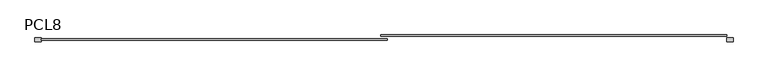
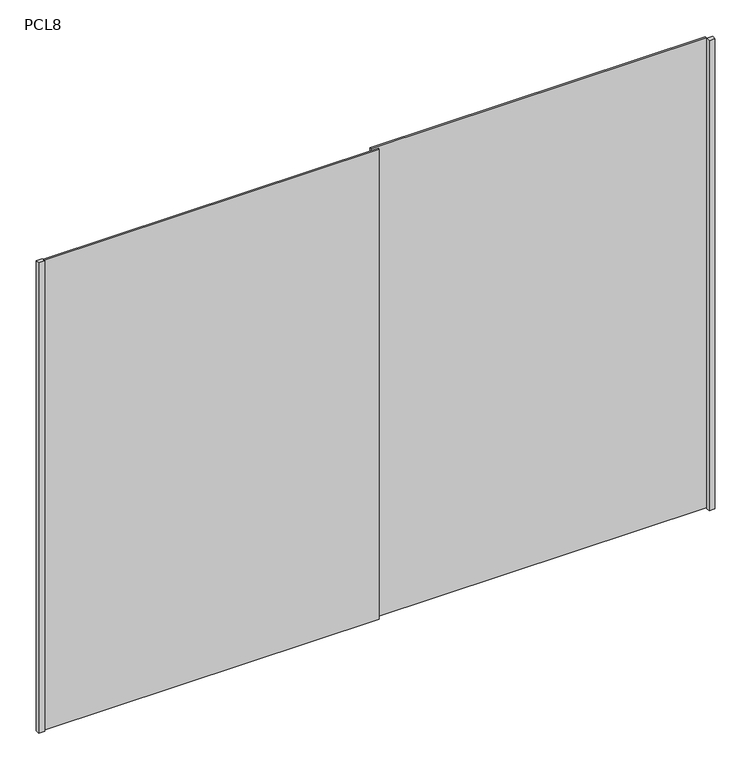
"""IFC4 building model written with IfcOpenShell, lengths in millimetres: furniture geometry, Puerta Closet corre 2 hojas : PCL8."""

import ifcopenshell
import ifcopenshell.guid

model = None  # the IFC model being written
_history = None  # IfcOwnerHistory: only IFC2X3 demands one
_inside = {}  # id of a spatial element -> (the spatial element, [elements in it])
_under = {}  # id of a project, library or spatial element -> (it, [spatial elements below it])
_declared = {}  # id of a project -> (the project, [libraries it declares])
_typed = {}  # id of a type object -> (the type object, [elements of that type])
_made_of = {}  # id of a material, layer set ... -> (it, [elements and type objects made of it])


def new_model(schema):
    """Start an empty IFC model of exactly this schema.

    Asked for "IFC4X3", IfcOpenShell would pick the latest addendum, in which some entities
    have other attributes; the version numbers below select the first issue.
    IFC2X3 requires an IfcOwnerHistory on every rooted entity: one is made here for all.
    """
    global model, _history
    if schema == "IFC4X3":
        model = ifcopenshell.file(schema_version=(4, 3, 0, 0))
    else:
        model = ifcopenshell.file(schema=schema)
    _inside.clear()
    _under.clear()
    _declared.clear()
    _typed.clear()
    _made_of.clear()
    _history = None
    if model.schema == "IFC2X3":
        org = make("IfcOrganization", Name="unknown")
        user = make(
            "IfcPersonAndOrganization",
            ThePerson=make("IfcPerson", FamilyName="unknown"),
            TheOrganization=org,
        )
        app = make(
            "IfcApplication",
            ApplicationDeveloper=org,
            Version="unknown",
            ApplicationFullName="unknown",
            ApplicationIdentifier="unknown",
        )
        _history = make(
            "IfcOwnerHistory",
            OwningUser=user,
            OwningApplication=app,
            ChangeAction="ADDED",
            CreationDate=0,
        )
    return model


def make(cls, **values):
    """One entity of the class cls with the attributes given. An attribute that is None is left unset."""
    return model.create_entity(
        cls, **{name: value for name, value in values.items() if value is not None}
    )


def rooted(cls, **values):
    """An entity with a GlobalId (a new one), such as an element, a storey or a relation."""
    return make(cls, GlobalId=ifcopenshell.guid.new(), OwnerHistory=_history, **values)


def si_unit(unit_type, name, prefix=None):
    """IfcSIUnit, for example si_unit("LENGTHUNIT", "METRE", prefix="MILLI")."""
    return make("IfcSIUnit", UnitType=unit_type, Prefix=prefix, Name=name)


def assignment(units):
    """IfcUnitAssignment: the units of a project."""
    return None if units is None else make("IfcUnitAssignment", Units=units)


def point(xyz):
    """IfcCartesianPoint."""
    return None if xyz is None else make("IfcCartesianPoint", Coordinates=xyz)


def direction(xyz):
    """IfcDirection."""
    return None if xyz is None else make("IfcDirection", DirectionRatios=xyz)


def frame(location, z_axis=None, x_axis=None):
    """IfcAxis2Placement3D, a coordinate frame: its origin and axes. An axis left out is left unset."""
    return make(
        "IfcAxis2Placement3D",
        Location=point(location),
        Axis=direction(z_axis),
        RefDirection=direction(x_axis),
    )


def origin():
    """The frame at (0, 0, 0) with its axes left unset."""
    return frame((0.0, 0.0, 0.0))


def origin_with_axes():
    """The frame at (0, 0, 0) with the z axis (0, 0, 1) and the x axis (1, 0, 0) written out."""
    return frame((0.0, 0.0, 0.0), z_axis=(0.0, 0.0, 1.0), x_axis=(1.0, 0.0, 0.0))


def place(relative_to, where):
    """IfcLocalPlacement: puts the frame where relative to a parent placement (None: the world)."""
    return make(
        "IfcLocalPlacement", PlacementRelTo=relative_to, RelativePlacement=where
    )


def context(
    kind, dimensions, precision=None, world=None, true_north=None, identifier=None
):
    """IfcGeometricRepresentationContext, for example the 3D "Model" context."""
    return make(
        "IfcGeometricRepresentationContext",
        ContextIdentifier=identifier,
        ContextType=kind,
        CoordinateSpaceDimension=dimensions,
        Precision=precision,
        WorldCoordinateSystem=world,
        TrueNorth=true_north,
    )


def project(units=None, contexts=None):
    """IfcProject with its units and contexts."""
    return rooted(
        "IfcProject",
        Name="project",
        RepresentationContexts=contexts,
        UnitsInContext=assignment(units),
    )


def spatial(cls, under=None, at=None, **own):
    """A site, building, storey or space (cls), placed at a placement, below another one or the project."""
    s = rooted(cls, ObjectPlacement=at, **own)
    if under is not None:
        _under.setdefault(under.id(), (under, []))[1].append(s)
    return s


def polyline(points):
    """IfcPolyline through the points."""
    return make("IfcPolyline", Points=[point(p) for p in points])


def outline(outer, holes=None, kind="AREA"):
    """IfcArbitraryClosedProfileDef: a profile drawn as a closed curve; with holes, ...WithVoids."""
    if holes is None:
        return make("IfcArbitraryClosedProfileDef", ProfileType=kind, OuterCurve=outer)
    return make(
        "IfcArbitraryProfileDefWithVoids",
        ProfileType=kind,
        OuterCurve=outer,
        InnerCurves=holes,
    )


def extrude(swept, where, along, depth):
    """IfcExtrudedAreaSolid: the profile swept, set in the frame where, extruded along a direction by depth."""
    return make(
        "IfcExtrudedAreaSolid",
        SweptArea=swept,
        Position=where,
        ExtrudedDirection=direction(along),
        Depth=depth,
    )


def shape(context_of_items, identifier, shape_type, items):
    """IfcShapeRepresentation: the items that make up one representation, for example the "Body"."""
    return make(
        "IfcShapeRepresentation",
        ContextOfItems=context_of_items,
        RepresentationIdentifier=identifier,
        RepresentationType=shape_type,
        Items=items,
    )


def source(mapping_origin, context_of_items, identifier, shape_type, items):
    """IfcRepresentationMap: a shape defined once, which mapped items show again and again."""
    return make(
        "IfcRepresentationMap",
        MappingOrigin=mapping_origin,
        MappedRepresentation=shape(context_of_items, identifier, shape_type, items),
    )


def transform(
    local_origin,
    x_axis=None,
    y_axis=None,
    z_axis=None,
    scale=None,
    scale2=None,
    scale3=None,
    uniform=True,
):
    """IfcCartesianTransformationOperator3D, or its non-uniform kind. x_axis, y_axis, z_axis: its Axis1, 2, 3."""
    if uniform:
        return make(
            "IfcCartesianTransformationOperator3D",
            Axis1=direction(x_axis),
            Axis2=direction(y_axis),
            LocalOrigin=point(local_origin),
            Scale=scale,
            Axis3=direction(z_axis),
        )
    return make(
        "IfcCartesianTransformationOperator3DnonUniform",
        Axis1=direction(x_axis),
        Axis2=direction(y_axis),
        LocalOrigin=point(local_origin),
        Scale=scale,
        Axis3=direction(z_axis),
        Scale2=scale2,
        Scale3=scale3,
    )


def mapped(mapping_source, mapping_target):
    """IfcMappedItem: shows the shape of a source again, moved by a transform."""
    return make(
        "IfcMappedItem", MappingSource=mapping_source, MappingTarget=mapping_target
    )


def made_of(thing, what):
    """Note that an element or type object is made of a material, layer set ...; save() writes the relation."""
    if what is not None:
        _made_of.setdefault(what.id(), (what, []))[1].append(thing)
    return thing


def element(
    cls,
    number,
    at=None,
    inside=None,
    cuts=None,
    type_object=None,
    material=None,
    context=None,
    identifier="Body",
    shape_type=None,
    held_by="IfcProductDefinitionShape",
    body=None,
    shapes=None,
    **own,
):
    """One element of the class cls, such as IfcWall. Its Tag is "e" and its number.

    at: its placement. inside: the storey or other place that contains it. cuts: it is an
    opening in that element (IfcRelVoidsElement). A single representation is given by context,
    identifier, shape_type and body (its items); several are given by shapes. held_by: the class
    of the entity that holds the representations. save() writes the other relations.
    """
    e = rooted(cls, Tag="e%d" % number, ObjectPlacement=at, **own)
    if body is not None:
        shapes = [shape(context, identifier, shape_type, body)]
    if shapes is not None:
        e.Representation = make(held_by, Representations=shapes)
    if inside is not None:
        _inside.setdefault(inside.id(), (inside, []))[1].append(e)
    if cuts is not None:
        rooted(
            "IfcRelVoidsElement", RelatingBuildingElement=cuts, RelatedOpeningElement=e
        )
    if type_object is not None:
        _typed.setdefault(type_object.id(), (type_object, []))[1].append(e)
    return made_of(e, material)


def aggregate(whole, parts):
    """IfcRelAggregates: a whole, such as a stair, and the parts it consists of."""
    return rooted("IfcRelAggregates", RelatingObject=whole, RelatedObjects=parts)


def save(model, path):
    """Write the relations noted so far, then the file.

    IfcRelAggregates (storeys below a building ...), IfcRelContainedInSpatialStructure (elements
    in a storey), IfcRelDefinesByType, IfcRelAssociatesMaterial and IfcRelDeclares: one each for
    every whole, place, type object, material and project.
    """
    for whole, parts in _under.values():
        aggregate(whole, parts)
    for where, things in _inside.values():
        rooted(
            "IfcRelContainedInSpatialStructure",
            RelatedElements=things,
            RelatingStructure=where,
        )
    for kind, things in _typed.values():
        rooted("IfcRelDefinesByType", RelatedObjects=things, RelatingType=kind)
    for what, things in _made_of.values():
        rooted("IfcRelAssociatesMaterial", RelatedObjects=things, RelatingMaterial=what)
    for by, libraries in _declared.values():
        rooted("IfcRelDeclares", RelatingContext=by, RelatedDefinitions=libraries)
    model.write(path)


def pcl8_9f75de13(model_context):
    return source(origin(), model_context, "Body", "SweptSolid", [
        extrude(outline(polyline([(1175.0, 80.0), (1145.0, 80.0), (1145.0, 100.0), (1175.0, 100.0), (1175.0, 80.0)])), origin_with_axes(), (0.0, 0.0, 1.0), 2520.0),
        extrude(outline(polyline([(1145.0, 106.6666667), (-555.0, 106.6666667), (-555.0, 113.3333333), (1145.0, 113.3333333), (1145.0, 106.6666667)])), origin_with_axes(), (0.0, 0.0, 1.0), 2520.0),
        extrude(outline(polyline([(-525.0, 86.6666667), (-2225.0, 86.6666667), (-2225.0, 93.3333333), (-525.0, 93.3333333), (-525.0, 86.6666667)])), origin_with_axes(), (0.0, 0.0, 1.0), 2520.0),
        extrude(outline(polyline([(-2255.0, 80.0), (-2255.0, 100.0), (-2225.0, 100.0), (-2225.0, 80.0), (-2255.0, 80.0)])), origin_with_axes(), (0.0, 0.0, 1.0), 2520.0),
    ])


if __name__ == "__main__":
    model = new_model("IFC4")
    model_context = context("Model", 3, world=origin())
    ifc_project = project(units=[si_unit("LENGTHUNIT", "METRE", prefix="MILLI")], contexts=[model_context])
    site = spatial("IfcSite", under=ifc_project)
    building = spatial("IfcBuilding", under=site)
    placement = place(None, origin())
    pcl8_shape = pcl8_9f75de13(model_context)
    element("IfcFurniture", 1, ObjectType="Puerta Closet corre 2 hojas : PCL8", at=placement, inside=building, context=model_context, shape_type="MappedRepresentation", body=[
        mapped(pcl8_shape, transform((0.0, 0.0, 0.0), x_axis=(1.0, 0.0, 0.0), y_axis=(0.0, 1.0, 0.0), z_axis=(0.0, 0.0, 1.0))),
    ])
    save(model, "model.ifc")
